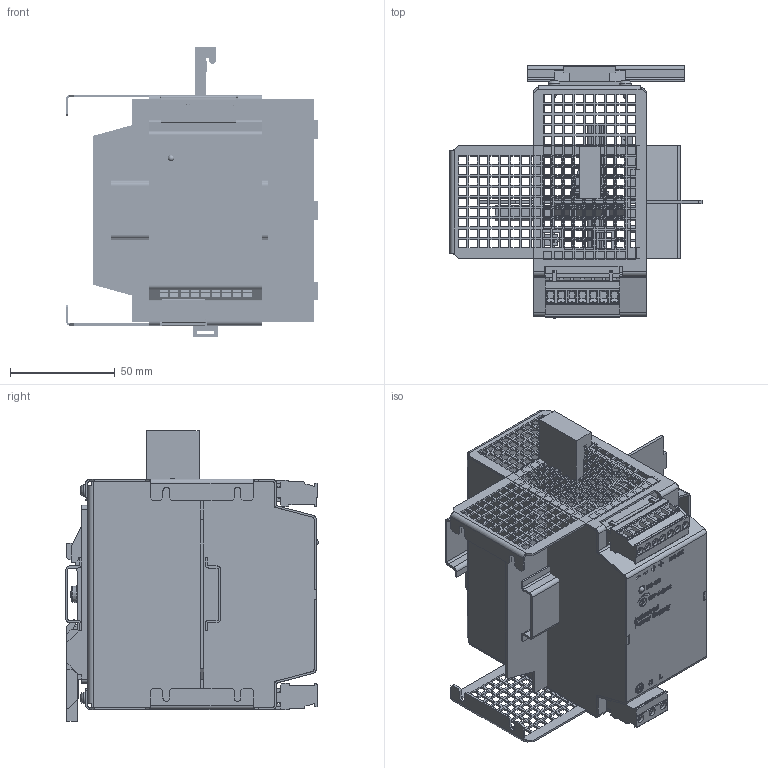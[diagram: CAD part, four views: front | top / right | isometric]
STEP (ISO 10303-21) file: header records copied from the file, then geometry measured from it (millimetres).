
FILE_DESCRIPTION( ( 'Unknown' ), '1' );
FILE_NAME( 'J:/DESBAKUP/120PSN184/Controlled/SolidEdge/TSP 120-124.stp', 'Unknown', ( 'Unknown' ), ( 'Unknown' ), 'PSStep 10.1', 'Unknown', ' ' );
FILE_SCHEMA( ( 'automotive_design' ) );
Length unit declared in the file: millimetre
Products named in the file (24): New Clip+Latch; Assem1; New Clip; New Latch; EN50022-7.5mm; D3.7L15-0.5; Chassis; Hood; 24300137-LATCH; 24300124; M4 Screw Adjustable Cross Recessed Raised Head Din 7985-oa0; 79812B__46,5-mattssons; MB-PCB; 022057028; SB-PCB; SB2; 21500023_LED-BLOCK_G+R_6,4X4,6X7,4; 22200016_10K0-POLI-S_9,5X9,5X4,9; M3 Screw  Adjustable Cross Recessed Countersunk Flat Head Screw DIN 965 -oa1; M3 Screw  Adjustable Cross Recessed Countersunk Flat Head Screw DIN 965 -oa2; 1766576; 1832536; 1792294; 1758063
Bounding box: 120.35 x 120.49 x 138.49 mm (x, y, z)
Volume: 249389.7 mm3; surface area: 318561.7 mm2
Topology: 51 solids, 51 shells, 7725 faces, 21174 edges, 13997 vertices
Faces by surface type: plane 6835, cylinder 512, extrusion 128, bspline 92, cone 79, sphere 60, torus 19
Full cylindrical faces by diameter (mm): 0.5 x10, 1.4 x40, 2 x5, 2.186 x20, 2.4 x8, 2.8 x32, 2.9 x15, 3 x6, 3.2 x12, 3.3 x12, 3.78 x20, 3.783 x20, 4 x30, 4.212 x2, 4.3 x3, 4.63 x2, 5.21 x2, 5.6 x9
Entity records: 124441 total; most frequent: CARTESIAN_POINT 29056, ORIENTED_EDGE 19670, DIRECTION 17419, EDGE_CURVE 9835, VECTOR 8827, LINE 8763, VERTEX_POINT 6589, EDGE_LOOP 4720
